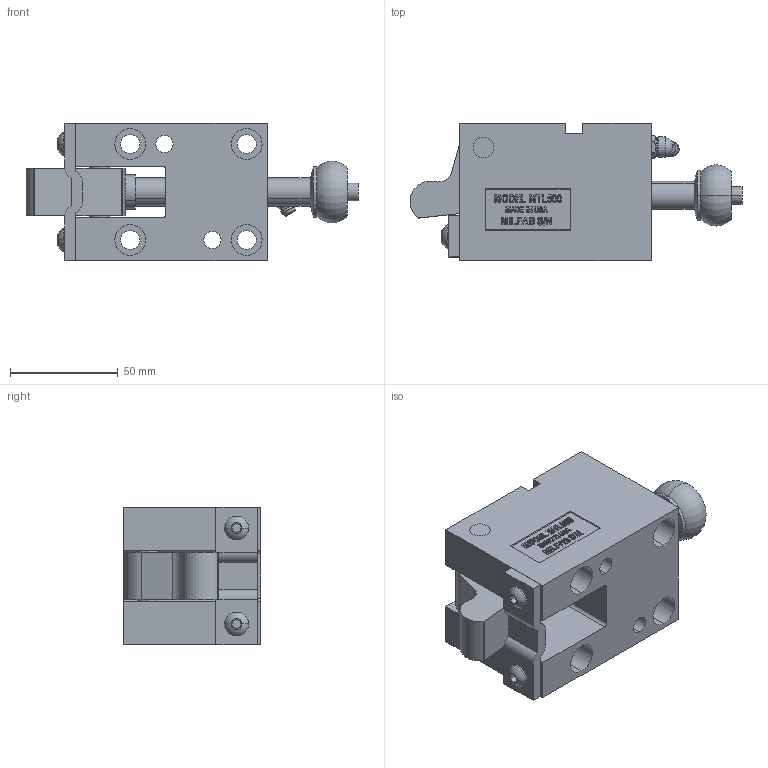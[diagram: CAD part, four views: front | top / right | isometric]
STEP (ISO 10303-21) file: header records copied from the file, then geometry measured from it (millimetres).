
FILE_DESCRIPTION (( 'STEP AP214' ), '1' );
FILE_NAME ('MTL50045-C.STEP', '2014-01-08T19:24:39', ( 'user' ), ( '' ), 'SwSTEP 2.0', 'SolidWorks 2009', '' );
FILE_SCHEMA (( 'AUTOMOTIVE_DESIGN' ));
Length unit declared in the file: inch
Products named in the file (11): MTL50045-C; ML500-PUNCH; 500 STRIPPER CLOSED; 500 PIVOT PIN; M-I-500-POINT; 500-WASHER; 500-OFFSET TRIGGER; GREASE ZERK; 1-4 SCREW; 500-I-STRAP; MTL500-BODY
Assembly tree (11 placements, depth 2):
  MTL50045-C
    500 PIVOT PIN
    ML500-PUNCH
    1-4 SCREW  x2
    MTL500-BODY
    500 STRIPPER CLOSED
    500-WASHER
    500-OFFSET TRIGGER
    500-I-STRAP
    GREASE ZERK
    M-I-500-POINT
Bounding box: 153.85 x 63.5 x 63.5 mm (x, y, z)
Volume: 304683.2 mm3; surface area: 71093.8 mm2
Topology: 11 solids, 11 shells, 589 faces, 1514 edges, 994 vertices
Faces by surface type: plane 349, cylinder 98, bspline 86, cone 30, torus 22, sphere 4
Entity records: 23073 total; most frequent: CARTESIAN_POINT 9168, ORIENTED_EDGE 2940, DIRECTION 2444, EDGE_CURVE 1470, VECTOR 978, LINE 978, VERTEX_POINT 968, AXIS2_PLACEMENT_3D 733
